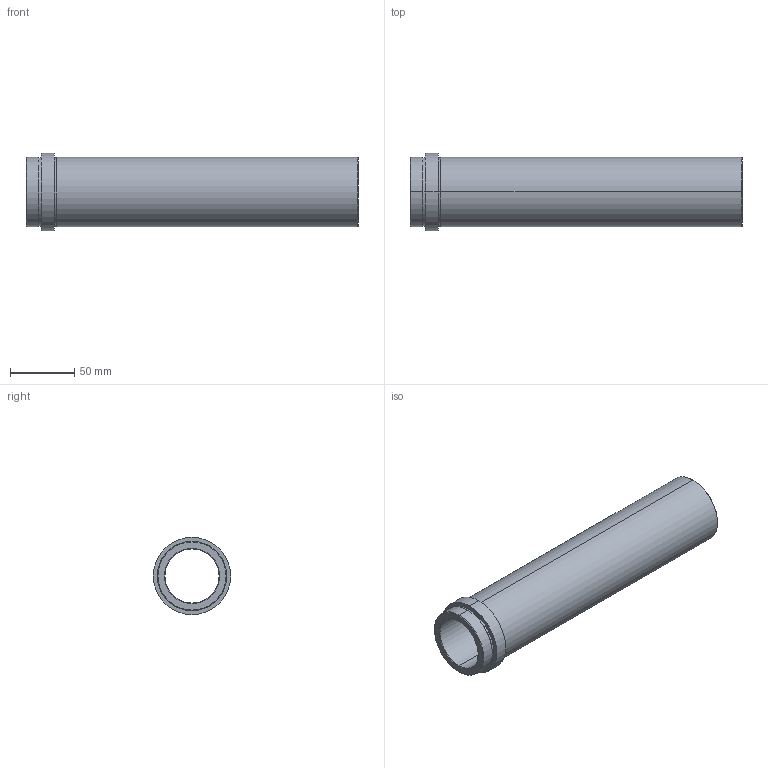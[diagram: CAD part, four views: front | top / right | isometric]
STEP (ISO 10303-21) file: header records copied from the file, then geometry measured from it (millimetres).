
FILE_DESCRIPTION( ( 'STEP AP203' ), '1' );
FILE_NAME( 'D:/Delta 3 D/D21/D21 - 42x246.step', '2002-12-31T23:01:01', ( ' ' ), ( ' ' ), 'XStep 1.0', ' ', ' ' );
FILE_SCHEMA( ( 'CONFIG_CONTROL_DESIGN' ) );
Length unit declared in the file: metre
Products named in the file (1): 1
Bounding box: 258 x 60 x 60 mm (x, y, z)
Volume: 238393.5 mm3; surface area: 81030.4 mm2
Topology: 1 solids, 1 shells, 26 faces, 52 edges, 32 vertices
Faces by surface type: revolution 20, bspline 6
Entity records: 773 total; most frequent: CARTESIAN_POINT 169, DIRECTION 106, ORIENTED_EDGE 104, EDGE_CURVE 52, AXIS2_PLACEMENT_3D 33, EDGE_LOOP 32, VERTEX_POINT 32, CIRCLE 32
